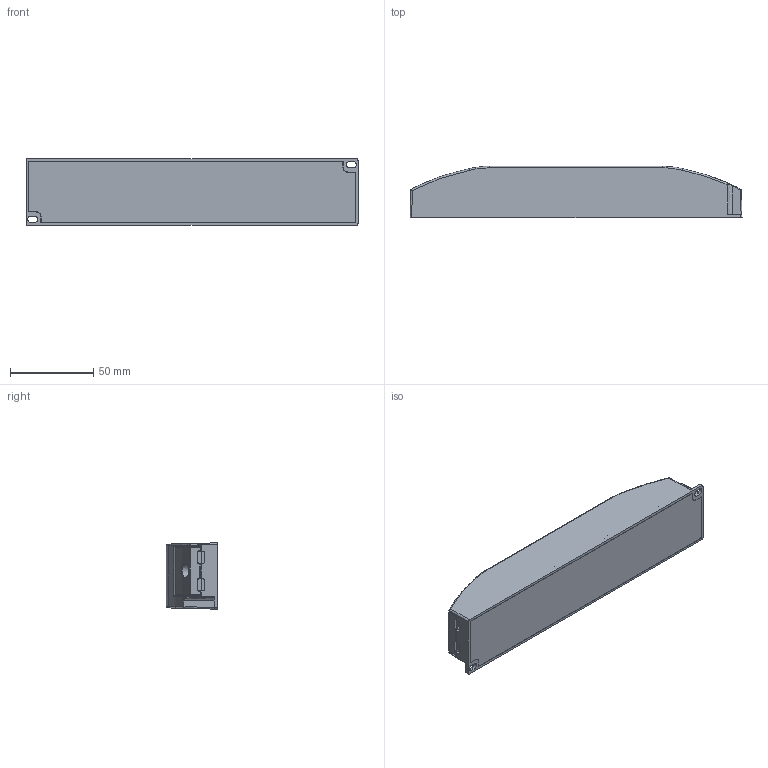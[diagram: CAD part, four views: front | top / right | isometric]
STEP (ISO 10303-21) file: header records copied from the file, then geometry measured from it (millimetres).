
FILE_DESCRIPTION(('HOOPS Exchange Step'),'2;1');
FILE_NAME('C:\Users\T.Zampieri\Documents\3 - OT\ELEMENT\ELEMENT 60 24V G2.stp','2019-12-04T11:22:53+01:00',('T.Zampieri'),('Unknown organisation'),'HOOPS Exchange 2018.2','HOOPS Exchange','Unknown authorisation');
FILE_SCHEMA( ('AUTOMOTIVE_DESIGN { 1 0 10303 214 1 1 1 1 }') );
Length unit declared in the file: millimetre
Products named in the file (1): Apri 28
Bounding box: 200 x 31 x 40 mm (x, y, z)
Volume: 46572.3 mm3; surface area: 67388.9 mm2
Topology: 4 solids, 4 shells, 888 faces, 2411 edges, 1543 vertices
Faces by surface type: bspline 888
Entity records: 28953 total; most frequent: CARTESIAN_POINT 14928, ORIENTED_EDGE 4800, EDGE_CURVE 2400, B_SPLINE_CURVE_WITH_KNOTS 1909, VERTEX_POINT 1543, EDGE_LOOP 923, FACE_BOUND 923, ADVANCED_FACE 888
